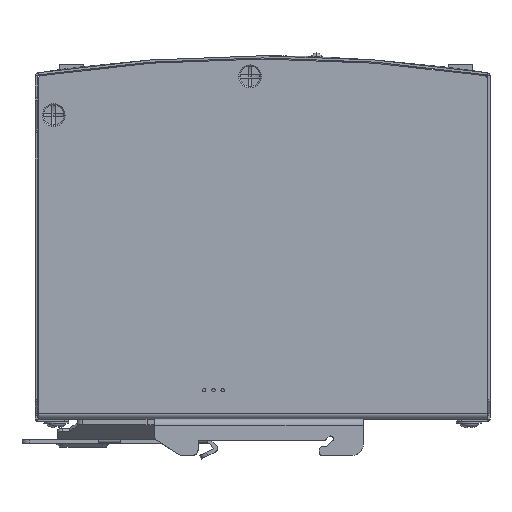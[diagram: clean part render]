
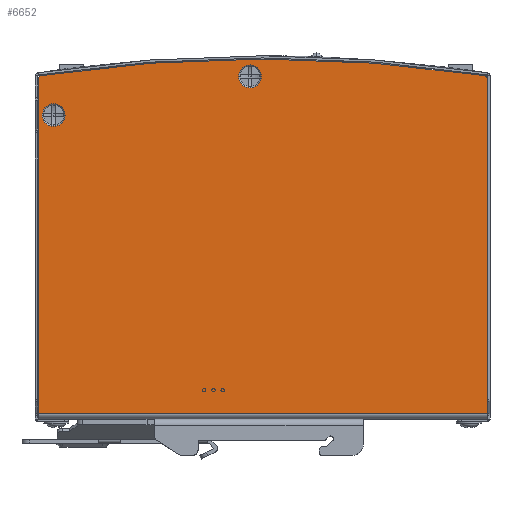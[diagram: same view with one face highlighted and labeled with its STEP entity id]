
A CAD part, top view. The second image highlights one B-rep face of the part: STEP entity #6652.
In plain terms, the highlighted planar face has unit normal (0, 0, 1) as drawn and (-1, 0, 0) by its records, which use the part's own axes.
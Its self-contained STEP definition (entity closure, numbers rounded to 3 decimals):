
#5484=DIRECTION('',(0.,1.,0.));
#5485=VECTOR('',#5484,92.342);
#5486=CARTESIAN_POINT('',(-16.,-57.5,62.));
#5487=LINE('',#5486,#5485);
#5496=CARTESIAN_POINT('',(-16.,34.842,-61.));
#5497=DIRECTION('',(1.,0.,0.));
#5498=DIRECTION('',(0.,0.,-1.));
#5499=AXIS2_PLACEMENT_3D('',#5496,#5497,#5498);
#5501=CARTESIAN_POINT('',(-16.,-371.082,0.));
#5502=DIRECTION('',(1.,0.,0.));
#5503=DIRECTION('',(0.,0.989,-0.149));
#5504=AXIS2_PLACEMENT_3D('',#5501,#5502,#5503);
#5506=CARTESIAN_POINT('',(-16.,34.842,61.));
#5507=DIRECTION('',(1.,0.,0.));
#5508=DIRECTION('',(0.,0.989,0.149));
#5509=AXIS2_PLACEMENT_3D('',#5506,#5507,#5508);
#5511=DIRECTION('',(0.,1.,0.));
#5512=VECTOR('',#5511,92.342);
#5513=CARTESIAN_POINT('',(-16.,-57.5,-62.));
#5514=LINE('',#5513,#5512);
#5515=CARTESIAN_POINT('',(-16.,24.9,-57.7));
#5516=DIRECTION('',(-1.,0.,0.));
#5517=DIRECTION('',(0.,0.,1.));
#5518=AXIS2_PLACEMENT_3D('',#5515,#5516,#5517);
#5520=CARTESIAN_POINT('',(-16.,24.9,-57.7));
#5521=DIRECTION('',(-1.,0.,0.));
#5522=DIRECTION('',(0.,0.,-1.));
#5523=AXIS2_PLACEMENT_3D('',#5520,#5521,#5522);
#5525=CARTESIAN_POINT('',(-16.,35.6,-3.5));
#5526=DIRECTION('',(-1.,0.,0.));
#5527=DIRECTION('',(0.,0.,1.));
#5528=AXIS2_PLACEMENT_3D('',#5525,#5526,#5527);
#5530=CARTESIAN_POINT('',(-16.,35.6,-3.5));
#5531=DIRECTION('',(-1.,0.,0.));
#5532=DIRECTION('',(0.,0.,-1.));
#5533=AXIS2_PLACEMENT_3D('',#5530,#5531,#5532);
#5539=DIRECTION('',(0.,0.,1.));
#5540=VECTOR('',#5539,124.);
#5541=CARTESIAN_POINT('',(-16.,-57.5,-62.));
#5542=LINE('',#5541,#5540);
#6134=CARTESIAN_POINT('',(-16.,-57.5,-62.));
#6135=VERTEX_POINT('',#6134);
#6136=CARTESIAN_POINT('',(-16.,34.842,-62.));
#6138=VERTEX_POINT('',#6136);
#6142=CARTESIAN_POINT('',(-16.,35.831,-61.149));
#6143=VERTEX_POINT('',#6142);
#6156=CARTESIAN_POINT('',(-16.,34.842,62.));
#6157=VERTEX_POINT('',#6156);
#6158=CARTESIAN_POINT('',(-16.,-57.5,62.));
#6159=VERTEX_POINT('',#6158);
#6160=CARTESIAN_POINT('',(-16.,35.831,61.149));
#6161=VERTEX_POINT('',#6160);
#6162=CARTESIAN_POINT('',(-16.,24.9,-54.55));
#6163=CARTESIAN_POINT('',(-16.,24.9,-60.85));
#6164=VERTEX_POINT('',#6162);
#6165=VERTEX_POINT('',#6163);
#6166=CARTESIAN_POINT('',(-16.,35.6,-0.35));
#6167=CARTESIAN_POINT('',(-16.,35.6,-6.65));
#6168=VERTEX_POINT('',#6166);
#6169=VERTEX_POINT('',#6167);
#6625=CARTESIAN_POINT('',(-16.,-57.5,-62.));
#6626=DIRECTION('',(1.,0.,0.));
#6627=DIRECTION('',(0.,1.,0.));
#6628=AXIS2_PLACEMENT_3D('',#6625,#6626,#6627);
#6629=PLANE('',#6628);
#6630=ORIENTED_EDGE('',*,*,#6561,.T.);
#6632=ORIENTED_EDGE('',*,*,#6631,.T.);
#6633=ORIENTED_EDGE('',*,*,#6618,.T.);
#6634=ORIENTED_EDGE('',*,*,#6606,.F.);
#6636=ORIENTED_EDGE('',*,*,#6635,.F.);
#6637=ORIENTED_EDGE('',*,*,#6544,.T.);
#6638=EDGE_LOOP('',(#6630,#6632,#6633,#6634,#6636,#6637));
#6639=FACE_OUTER_BOUND('',#6638,.F.);
#6641=ORIENTED_EDGE('',*,*,#6640,.T.);
#6643=ORIENTED_EDGE('',*,*,#6642,.T.);
#6644=EDGE_LOOP('',(#6641,#6643));
#6645=FACE_BOUND('',#6644,.F.);
#6647=ORIENTED_EDGE('',*,*,#6646,.T.);
#6649=ORIENTED_EDGE('',*,*,#6648,.T.);
#6650=EDGE_LOOP('',(#6647,#6649));
#6651=FACE_BOUND('',#6650,.F.);
#5500=CIRCLE('',#5499,1.);
#5505=CIRCLE('',#5504,411.482);
#5510=CIRCLE('',#5509,1.);
#5519=CIRCLE('',#5518,3.15);
#5524=CIRCLE('',#5523,3.15);
#5529=CIRCLE('',#5528,3.15);
#5534=CIRCLE('',#5533,3.15);
#6544=EDGE_CURVE('',#6135,#6138,#5514,.T.);
#6561=EDGE_CURVE('',#6138,#6143,#5500,.T.);
#6606=EDGE_CURVE('',#6159,#6157,#5487,.T.);
#6618=EDGE_CURVE('',#6161,#6157,#5510,.T.);
#6631=EDGE_CURVE('',#6143,#6161,#5505,.T.);
#6635=EDGE_CURVE('',#6135,#6159,#5542,.T.);
#6640=EDGE_CURVE('',#6164,#6165,#5519,.T.);
#6642=EDGE_CURVE('',#6165,#6164,#5524,.T.);
#6646=EDGE_CURVE('',#6168,#6169,#5529,.T.);
#6648=EDGE_CURVE('',#6169,#6168,#5534,.T.);
#6652=ADVANCED_FACE('',(#6639,#6645,#6651),#6629,.F.);
